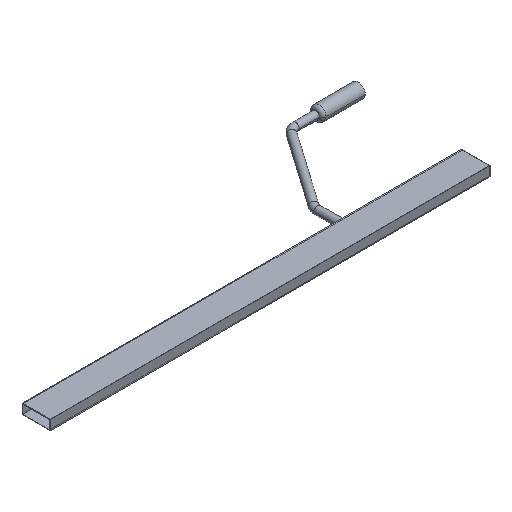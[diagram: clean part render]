
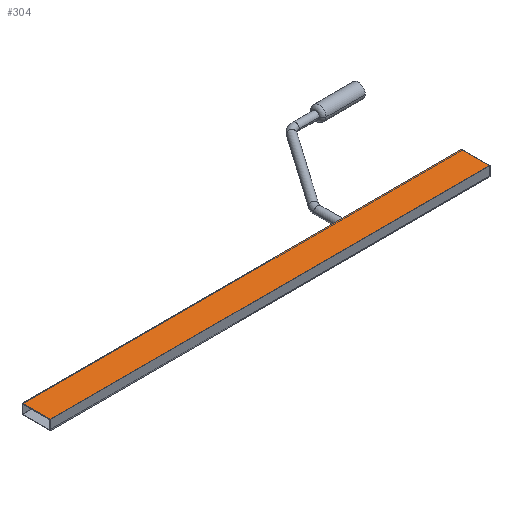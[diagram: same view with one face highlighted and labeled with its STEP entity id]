
A CAD part, isometric view. The second image highlights one B-rep face of the part: STEP entity #304.
In plain terms, the highlighted planar face has unit normal (0, 0, 1).
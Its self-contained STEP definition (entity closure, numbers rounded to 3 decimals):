
#16 = VERTEX_POINT ( 'NONE', #44 ) ;
#18 = VERTEX_POINT ( 'NONE', #46 ) ;
#19 = VERTEX_POINT ( 'NONE', #47 ) ;
#21 = VERTEX_POINT ( 'NONE', #49 ) ;
#44 = CARTESIAN_POINT ( 'NONE',  ( 127.247, 0., 5.25 ) ) ;
#46 = CARTESIAN_POINT ( 'NONE',  ( -339.853, 0., 5.25 ) ) ;
#47 = CARTESIAN_POINT ( 'NONE',  ( 127.247, -30., 5.25 ) ) ;
#49 = CARTESIAN_POINT ( 'NONE',  ( -339.853, -30., 5.25 ) ) ;
#66 = CARTESIAN_POINT ( 'NONE',  ( -339.853, -30., 5.25 ) ) ;
#67 = PLANE ( 'NONE',  #437 ) ;
#70 = DIRECTION ( 'NONE',  ( 0., 0., 1. ) ) ;
#71 = DIRECTION ( 'NONE',  ( 0., -1., 0. ) ) ;
#191 = CARTESIAN_POINT ( 'NONE',  ( -339.853, -30., 5.25 ) ) ;
#196 = DIRECTION ( 'NONE',  ( 1., 0., 0. ) ) ;
#224 = CARTESIAN_POINT ( 'NONE',  ( -339.853, -30., 5.25 ) ) ;
#233 = DIRECTION ( 'NONE',  ( 0., -1., 0. ) ) ;
#235 = CARTESIAN_POINT ( 'NONE',  ( -339.853, 0., 5.25 ) ) ;
#236 = DIRECTION ( 'NONE',  ( 1., 0., 0. ) ) ;
#276 = CARTESIAN_POINT ( 'NONE',  ( 127.247, -30., 5.25 ) ) ;
#277 = DIRECTION ( 'NONE',  ( 0., -1., 0. ) ) ;
#304 = ADVANCED_FACE ( 'NONE', ( #561 ), #67, .T. ) ;
#354 = EDGE_CURVE ( 'NONE', #21, #19, #644, .T. ) ;
#380 = EDGE_CURVE ( 'NONE', #18, #21, #683, .T. ) ;
#382 = EDGE_CURVE ( 'NONE', #18, #16, #685, .T. ) ;
#426 = EDGE_CURVE ( 'NONE', #16, #19, #707, .T. ) ;
#437 = AXIS2_PLACEMENT_3D ( 'NONE', #66, #70, #71 ) ;
#552 = ORIENTED_EDGE ( 'NONE', *, *, #382, .F. ) ;
#553 = ORIENTED_EDGE ( 'NONE', *, *, #426, .F. ) ;
#558 = ORIENTED_EDGE ( 'NONE', *, *, #380, .T. ) ;
#559 = ORIENTED_EDGE ( 'NONE', *, *, #354, .T. ) ;
#561 = FACE_OUTER_BOUND ( 'NONE', #566, .T. ) ;
#566 = EDGE_LOOP ( 'NONE', ( #553, #552, #558, #559 ) ) ;
#644 = LINE ( 'NONE', #191, #656 ) ;
#656 = VECTOR ( 'NONE', #196, 1000. ) ;
#681 = VECTOR ( 'NONE', #233, 1000. ) ;
#683 = LINE ( 'NONE', #224, #681 ) ;
#685 = LINE ( 'NONE', #235, #686 ) ;
#686 = VECTOR ( 'NONE', #236, 1000. ) ;
#707 = LINE ( 'NONE', #276, #710 ) ;
#710 = VECTOR ( 'NONE', #277, 1000. ) ;
